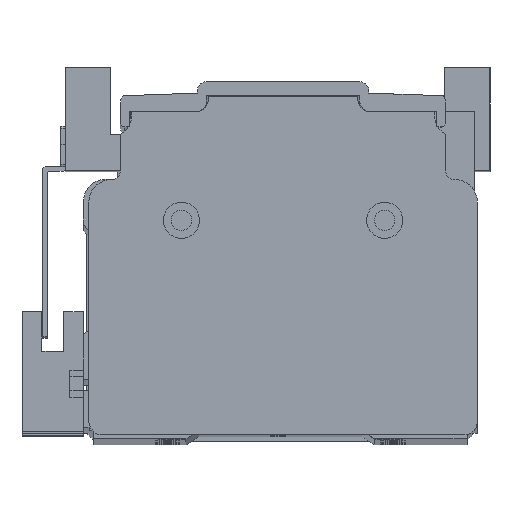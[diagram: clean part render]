
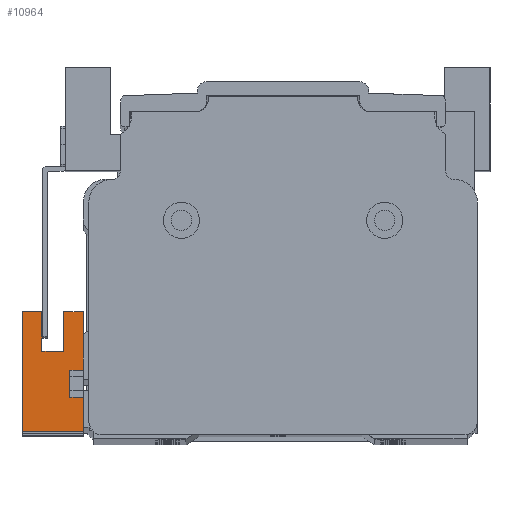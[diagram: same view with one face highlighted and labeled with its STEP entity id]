
A CAD part, top view. The second image highlights one B-rep face of the part: STEP entity #10964.
In plain terms, the highlighted planar face has unit normal (0, 0, 1).
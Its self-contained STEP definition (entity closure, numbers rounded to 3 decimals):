
#42 = CARTESIAN_POINT ( 'NONE',  ( 6.8, 13.3, 6.5 ) ) ;
#172 = CARTESIAN_POINT ( 'NONE',  ( 3.8, 0.3, 6.5 ) ) ;
#249 = DIRECTION ( 'NONE',  ( 1., 0., 0. ) ) ;
#575 = CARTESIAN_POINT ( 'NONE',  ( -2.4, 4.5, 6.5 ) ) ;
#653 = EDGE_CURVE ( 'NONE', #19093, #14381, #18093, .T. ) ;
#987 = CARTESIAN_POINT ( 'NONE',  ( -6.8, 13.3, 6.5 ) ) ;
#1013 = LINE ( 'NONE', #18066, #9531 ) ;
#1132 = ORIENTED_EDGE ( 'NONE', *, *, #9159, .F. ) ;
#1182 = DIRECTION ( 'NONE',  ( 0., 0., 1. ) ) ;
#1207 = EDGE_CURVE ( 'NONE', #14678, #20948, #1889, .T. ) ;
#1457 = LINE ( 'NONE', #17153, #9971 ) ;
#1511 = DIRECTION ( 'NONE',  ( -1., 0., 0. ) ) ;
#1889 = LINE ( 'NONE', #1963, #11487 ) ;
#1938 = ORIENTED_EDGE ( 'NONE', *, *, #8743, .F. ) ;
#1963 = CARTESIAN_POINT ( 'NONE',  ( 0., 13.3, 6.5 ) ) ;
#2550 = DIRECTION ( 'NONE',  ( 1., 0., 0. ) ) ;
#2608 = VERTEX_POINT ( 'NONE', #14002 ) ;
#2725 = CARTESIAN_POINT ( 'NONE',  ( -6.8, -13.3, 6.5 ) ) ;
#2868 = CARTESIAN_POINT ( 'NONE',  ( 3.8, 0.3, 6.5 ) ) ;
#3049 = ORIENTED_EDGE ( 'NONE', *, *, #1207, .F. ) ;
#3395 = DIRECTION ( 'NONE',  ( 0., -1., 0. ) ) ;
#3530 = VERTEX_POINT ( 'NONE', #7804 ) ;
#4214 = CARTESIAN_POINT ( 'NONE',  ( 6.8, -5.7, 6.5 ) ) ;
#4294 = VERTEX_POINT ( 'NONE', #172 ) ;
#4314 = AXIS2_PLACEMENT_3D ( 'NONE', #16600, #1182, #13118 ) ;
#4855 = VECTOR ( 'NONE', #15201, 1000. ) ;
#4896 = CARTESIAN_POINT ( 'NONE',  ( 2.4, 4.5, 6.5 ) ) ;
#5317 = LINE ( 'NONE', #5468, #18558 ) ;
#5468 = CARTESIAN_POINT ( 'NONE',  ( 2.4, 0., 6.5 ) ) ;
#6003 = LINE ( 'NONE', #11886, #19280 ) ;
#6098 = CARTESIAN_POINT ( 'NONE',  ( 0., 13.3, 6.5 ) ) ;
#6232 = ORIENTED_EDGE ( 'NONE', *, *, #8972, .T. ) ;
#6925 = VECTOR ( 'NONE', #249, 1000. ) ;
#7170 = DIRECTION ( 'NONE',  ( 0., -1., 0. ) ) ;
#7611 = VECTOR ( 'NONE', #19331, 1000. ) ;
#7804 = CARTESIAN_POINT ( 'NONE',  ( 3.8, -5.7, 6.5 ) ) ;
#8015 = EDGE_CURVE ( 'NONE', #21625, #19093, #9848, .T. ) ;
#8642 = FACE_OUTER_BOUND ( 'NONE', #15333, .T. ) ;
#8743 = EDGE_CURVE ( 'NONE', #3530, #17016, #16122, .T. ) ;
#8972 = EDGE_CURVE ( 'NONE', #14678, #16148, #5317, .T. ) ;
#9159 = EDGE_CURVE ( 'NONE', #14381, #16148, #1013, .T. ) ;
#9531 = VECTOR ( 'NONE', #2550, 1000. ) ;
#9848 = LINE ( 'NONE', #6098, #19701 ) ;
#9971 = VECTOR ( 'NONE', #3395, 1000. ) ;
#10141 = DIRECTION ( 'NONE',  ( 0., -1., 0. ) ) ;
#10455 = CARTESIAN_POINT ( 'NONE',  ( 3.8, -5.7, 6.5 ) ) ;
#10460 = EDGE_CURVE ( 'NONE', #4294, #3530, #18766, .T. ) ;
#10964 = ADVANCED_FACE ( 'NONE', ( #8642 ), #11412, .T. ) ;
#11068 = VECTOR ( 'NONE', #1511, 1000. ) ;
#11258 = EDGE_CURVE ( 'NONE', #16629, #14054, #15972, .T. ) ;
#11326 = VECTOR ( 'NONE', #20893, 1000. ) ;
#11412 = PLANE ( 'NONE',  #4314 ) ;
#11432 = ORIENTED_EDGE ( 'NONE', *, *, #13244, .T. ) ;
#11487 = VECTOR ( 'NONE', #13905, 1000. ) ;
#11607 = LINE ( 'NONE', #18704, #11068 ) ;
#11776 = CARTESIAN_POINT ( 'NONE',  ( -2.4, 13.3, 6.5 ) ) ;
#11886 = CARTESIAN_POINT ( 'NONE',  ( 6.8, 0., 6.5 ) ) ;
#12648 = ORIENTED_EDGE ( 'NONE', *, *, #653, .F. ) ;
#13118 = DIRECTION ( 'NONE',  ( 1., 0., 0. ) ) ;
#13147 = DIRECTION ( 'NONE',  ( 0., -1., 0. ) ) ;
#13244 = EDGE_CURVE ( 'NONE', #21625, #16629, #16814, .T. ) ;
#13689 = EDGE_CURVE ( 'NONE', #17016, #14054, #6003, .T. ) ;
#13803 = CARTESIAN_POINT ( 'NONE',  ( 0., -13.3, 6.5 ) ) ;
#13905 = DIRECTION ( 'NONE',  ( 1., 0., 0. ) ) ;
#14002 = CARTESIAN_POINT ( 'NONE',  ( 6.8, 0.3, 6.5 ) ) ;
#14054 = VERTEX_POINT ( 'NONE', #20043 ) ;
#14072 = VECTOR ( 'NONE', #13147, 1000. ) ;
#14381 = VERTEX_POINT ( 'NONE', #575 ) ;
#14604 = CARTESIAN_POINT ( 'NONE',  ( -2.4, 0., 6.5 ) ) ;
#14678 = VERTEX_POINT ( 'NONE', #16943 ) ;
#15201 = DIRECTION ( 'NONE',  ( 0., -1., 0. ) ) ;
#15333 = EDGE_LOOP ( 'NONE', ( #1938, #21996, #17824, #16217, #3049, #6232, #1132, #12648, #16017, #11432, #21102, #17997 ) ) ;
#15972 = LINE ( 'NONE', #13803, #11326 ) ;
#16017 = ORIENTED_EDGE ( 'NONE', *, *, #8015, .F. ) ;
#16122 = LINE ( 'NONE', #10455, #6925 ) ;
#16148 = VERTEX_POINT ( 'NONE', #4896 ) ;
#16217 = ORIENTED_EDGE ( 'NONE', *, *, #17341, .F. ) ;
#16430 = DIRECTION ( 'NONE',  ( 1., 0., 0. ) ) ;
#16600 = CARTESIAN_POINT ( 'NONE',  ( 0., 0., 6.5 ) ) ;
#16629 = VERTEX_POINT ( 'NONE', #2725 ) ;
#16814 = LINE ( 'NONE', #21172, #7611 ) ;
#16943 = CARTESIAN_POINT ( 'NONE',  ( 2.4, 13.3, 6.5 ) ) ;
#17016 = VERTEX_POINT ( 'NONE', #4214 ) ;
#17153 = CARTESIAN_POINT ( 'NONE',  ( 6.8, 0., 6.5 ) ) ;
#17271 = EDGE_CURVE ( 'NONE', #2608, #4294, #11607, .T. ) ;
#17341 = EDGE_CURVE ( 'NONE', #20948, #2608, #1457, .T. ) ;
#17824 = ORIENTED_EDGE ( 'NONE', *, *, #17271, .F. ) ;
#17997 = ORIENTED_EDGE ( 'NONE', *, *, #13689, .F. ) ;
#18066 = CARTESIAN_POINT ( 'NONE',  ( 0., 4.5, 6.5 ) ) ;
#18093 = LINE ( 'NONE', #14604, #4855 ) ;
#18558 = VECTOR ( 'NONE', #7170, 1000. ) ;
#18704 = CARTESIAN_POINT ( 'NONE',  ( 3.8, 0.3, 6.5 ) ) ;
#18766 = LINE ( 'NONE', #2868, #14072 ) ;
#19093 = VERTEX_POINT ( 'NONE', #11776 ) ;
#19280 = VECTOR ( 'NONE', #10141, 1000. ) ;
#19331 = DIRECTION ( 'NONE',  ( 0., -1., 0. ) ) ;
#19701 = VECTOR ( 'NONE', #16430, 1000. ) ;
#20043 = CARTESIAN_POINT ( 'NONE',  ( 6.8, -13.3, 6.5 ) ) ;
#20893 = DIRECTION ( 'NONE',  ( 1., 0., 0. ) ) ;
#20948 = VERTEX_POINT ( 'NONE', #42 ) ;
#21102 = ORIENTED_EDGE ( 'NONE', *, *, #11258, .T. ) ;
#21172 = CARTESIAN_POINT ( 'NONE',  ( -6.8, 0., 6.5 ) ) ;
#21625 = VERTEX_POINT ( 'NONE', #987 ) ;
#21996 = ORIENTED_EDGE ( 'NONE', *, *, #10460, .F. ) ;
